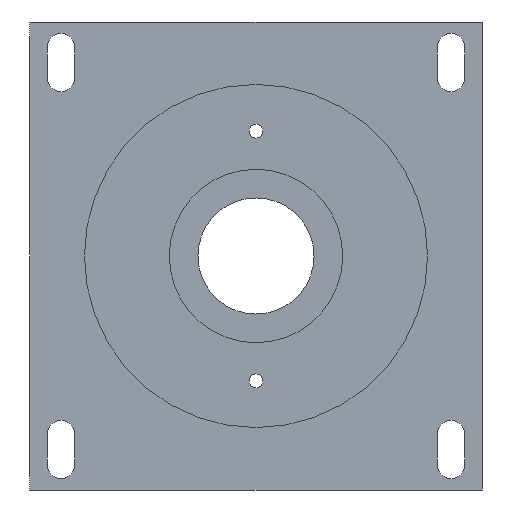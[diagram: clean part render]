
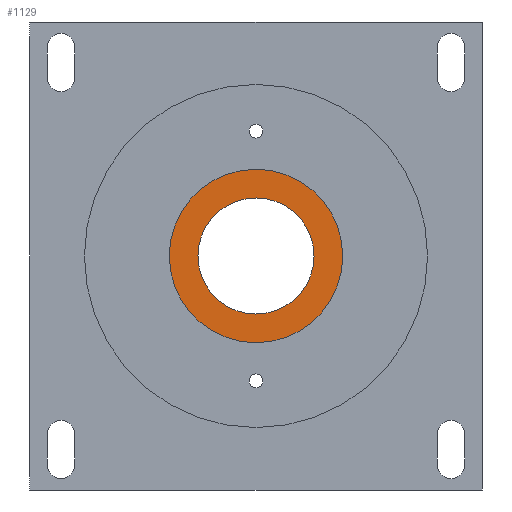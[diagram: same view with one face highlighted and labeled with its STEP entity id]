
A CAD part, front view. The second image highlights one B-rep face of the part: STEP entity #1129.
In plain terms, the highlighted planar face has unit normal (0, -1, 0).
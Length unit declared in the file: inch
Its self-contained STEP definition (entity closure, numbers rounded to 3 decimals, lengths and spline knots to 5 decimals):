
#33 = CARTESIAN_POINT ( 'NONE',  ( 2.6404, 3.09142, 3.73824 ) ) ;
#74 = DIRECTION ( 'NONE',  ( -1., 0., 0.003 ) ) ;
#164 = VERTEX_POINT ( 'NONE', #1432 ) ;
#165 = FACE_OUTER_BOUND ( 'NONE', #4497, .T. ) ;
#181 = CARTESIAN_POINT ( 'NONE',  ( 2.6404, 3.09142, 3.73824 ) ) ;
#230 = CARTESIAN_POINT ( 'NONE',  ( 3.57039, 3.09142, 3.73515 ) ) ;
#329 = AXIS2_PLACEMENT_3D ( 'NONE', #4554, #4365, #74 ) ;
#343 = VERTEX_POINT ( 'NONE', #551 ) ;
#446 = ORIENTED_EDGE ( 'NONE', *, *, #2897, .F. ) ;
#452 = VERTEX_POINT ( 'NONE', #3743 ) ;
#493 = CIRCLE ( 'NONE', #1601, 0.93 ) ;
#542 = AXIS2_PLACEMENT_3D ( 'NONE', #4926, #3585, #3606 ) ;
#551 = CARTESIAN_POINT ( 'NONE',  ( 4.03039, 3.09142, 3.73362 ) ) ;
#798 = EDGE_CURVE ( 'NONE', #3974, #452, #493, .T. ) ;
#995 = DIRECTION ( 'NONE',  ( 0., -1., 0. ) ) ;
#1129 = ADVANCED_FACE ( 'NONE', ( #2260, #165 ), #5015, .F. ) ;
#1432 = CARTESIAN_POINT ( 'NONE',  ( 1.25041, 3.09142, 3.74286 ) ) ;
#1601 = AXIS2_PLACEMENT_3D ( 'NONE', #33, #995, #3966 ) ;
#1608 = CIRCLE ( 'NONE', #542, 0.93 ) ;
#1617 = DIRECTION ( 'NONE',  ( 0., 1., 0. ) ) ;
#1692 = DIRECTION ( 'NONE',  ( 0., 1., 0. ) ) ;
#1882 = ORIENTED_EDGE ( 'NONE', *, *, #3948, .F. ) ;
#2260 = FACE_BOUND ( 'NONE', #4299, .T. ) ;
#2363 = AXIS2_PLACEMENT_3D ( 'NONE', #181, #1692, #4416 ) ;
#2406 = ORIENTED_EDGE ( 'NONE', *, *, #798, .F. ) ;
#2441 = CIRCLE ( 'NONE', #4274, 1.39 ) ;
#2495 = EDGE_CURVE ( 'NONE', #164, #343, #2441, .T. ) ;
#2897 = EDGE_CURVE ( 'NONE', #452, #3974, #1608, .T. ) ;
#3524 = ORIENTED_EDGE ( 'NONE', *, *, #2495, .F. ) ;
#3569 = CARTESIAN_POINT ( 'NONE',  ( 2.6404, 3.09142, 3.73824 ) ) ;
#3585 = DIRECTION ( 'NONE',  ( 0., -1., 0. ) ) ;
#3606 = DIRECTION ( 'NONE',  ( 1., 0., -0.003 ) ) ;
#3743 = CARTESIAN_POINT ( 'NONE',  ( 1.7104, 3.09142, 3.74133 ) ) ;
#3948 = EDGE_CURVE ( 'NONE', #343, #164, #4598, .T. ) ;
#3966 = DIRECTION ( 'NONE',  ( 1., 0., -0.003 ) ) ;
#3974 = VERTEX_POINT ( 'NONE', #230 ) ;
#4274 = AXIS2_PLACEMENT_3D ( 'NONE', #3569, #1617, #4670 ) ;
#4299 = EDGE_LOOP ( 'NONE', ( #2406, #446 ) ) ;
#4365 = DIRECTION ( 'NONE',  ( 0., 1., 0. ) ) ;
#4416 = DIRECTION ( 'NONE',  ( -1., 0., 0.003 ) ) ;
#4497 = EDGE_LOOP ( 'NONE', ( #3524, #1882 ) ) ;
#4554 = CARTESIAN_POINT ( 'NONE',  ( 2.6404, 3.09142, 3.73824 ) ) ;
#4598 = CIRCLE ( 'NONE', #2363, 1.39 ) ;
#4670 = DIRECTION ( 'NONE',  ( -1., 0., 0.003 ) ) ;
#4926 = CARTESIAN_POINT ( 'NONE',  ( 2.6404, 3.09142, 3.73824 ) ) ;
#5015 = PLANE ( 'NONE',  #329 ) ;
